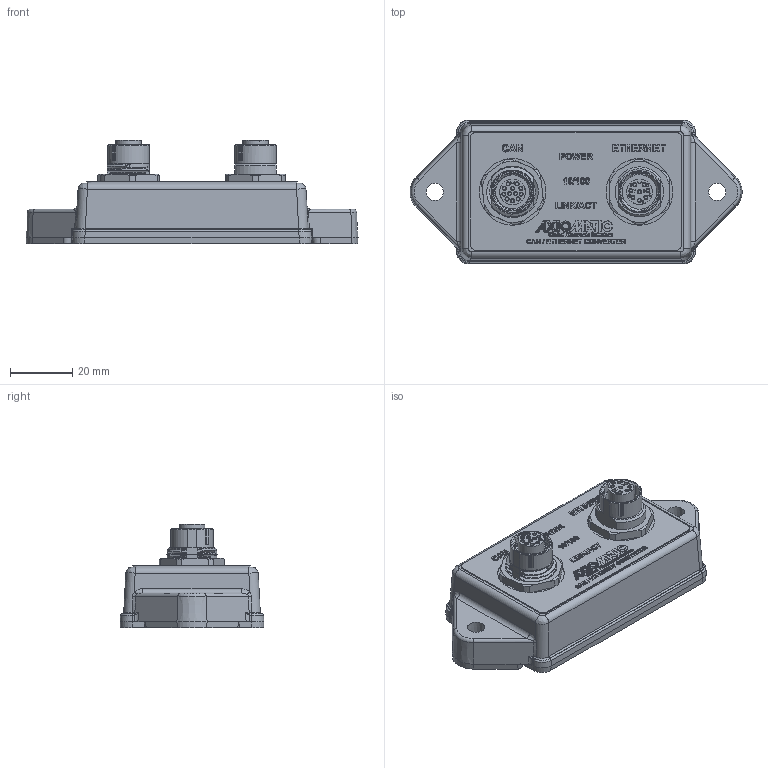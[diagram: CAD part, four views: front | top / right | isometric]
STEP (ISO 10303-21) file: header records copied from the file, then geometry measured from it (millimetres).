
FILE_DESCRIPTION(/* description */ (''),/* implementation_level */ '2;1');
FILE_NAME(/* name */ 'S:\Projects\RS232-RS232-RS422-CAN-ENET-H7, AX142100A, Proj_23012\UNIT ASSEMBLY\RELEASED\P1\AX142100A.stp',/* time_stamp */ '2024-06-14T12:46:38-04:00',/* author */ ('tfisher'),/* organization */ (''),/* preprocessor_version */ 'ST-DEVELOPER v18.1',/* originating_system */ 'Autodesk Inventor 2021',/* authorisation */ '');
FILE_SCHEMA (('CONFIG_CONTROL_DESIGN'));
Products named in the file (1): AX142100A
Bounding box: 106.32 x 46.04 x 33.25 mm (x, y, z)
Volume: 28206.4 mm3; surface area: 28747.5 mm2
Topology: 1 solids, 3 shells, 2422 faces, 6474 edges, 4287 vertices
Faces by surface type: plane 1552, bspline 467, cylinder 237, cone 98, torus 50, sphere 18
Full cylindrical faces by diameter (mm): 0.217 x1, 0.6 x20, 1 x28, 1.1 x12, 1.52 x2, 10.9 x2, 11.13 x1, 11.684 x1, 12.2 x1, 14.6 x1, 15.6 x1, 21.336 x2
Entity records: 91852 total; most frequent: CARTESIAN_POINT 31666, ORIENTED_EDGE 12897, DIRECTION 10258, EDGE_CURVE 6457, LINE 4304, VECTOR 4304, VERTEX_POINT 4287, AXIS2_PLACEMENT_3D 2977
